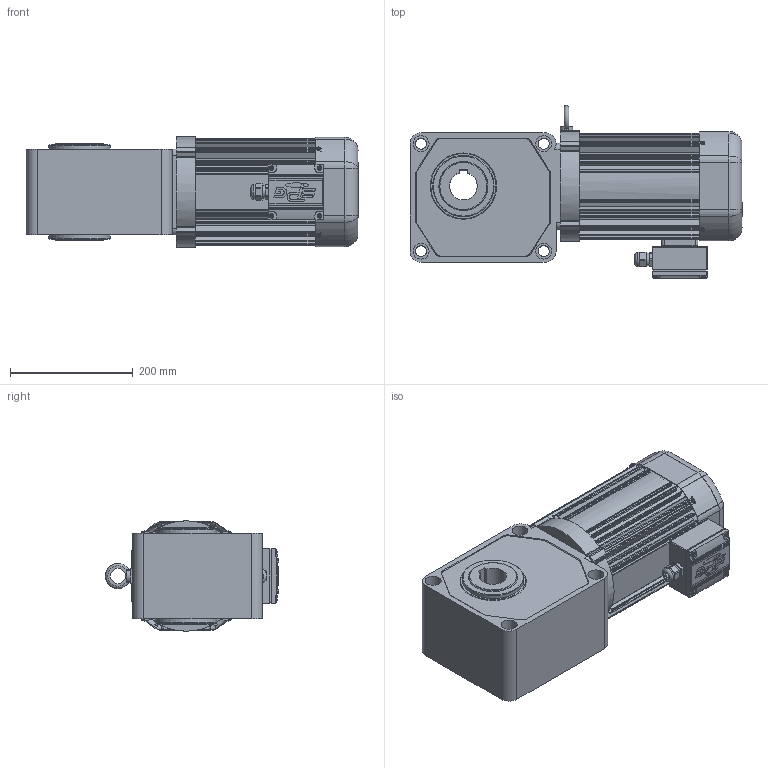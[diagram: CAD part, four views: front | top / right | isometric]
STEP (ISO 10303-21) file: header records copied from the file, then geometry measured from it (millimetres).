
FILE_DESCRIPTION(/* description */ (''),/* implementation_level */ '2;1');
FILE_NAME(/* name */ 'Z:\동력 3D 파일\PCH45_1.5kW_3D.stp',/* time_stamp */ '2021-11-09T10:22:34+09:00',/* author */ ('jaebok'),/* organization */ (''),/* preprocessor_version */ 'ST-DEVELOPER v18.1',/* originating_system */ 'Autodesk Inventor 2022',/* authorisation */ '');
FILE_SCHEMA (('AUTOMOTIVE_DESIGN { 1 0 10303 214 3 1 1 }'));
Products named in the file (1): 부품31
Bounding box: 541 x 282 x 180 mm (x, y, z)
Volume: 8863570.8 mm3; surface area: 882449.9 mm2
Topology: 1 solids, 25 shells, 1754 faces, 4613 edges, 2905 vertices
Faces by surface type: plane 710, cylinder 644, bspline 238, torus 87, cone 55, sphere 20
Full cylindrical faces by diameter (mm): 3.25 x1, 3.6 x4, 4 x22, 4.917 x4, 5 x17, 6 x1, 7 x12, 8 x1, 8.8 x1, 10 x3, 12.5 x1, 15 x1, 18 x4, 20 x2, 21 x1, 23.6 x1, 25 x2, 26 x5, 36 x1, 38 x1, 52 x1, 100 x2, 156 x1, 160 x2, 161 x1, 165.4 x2, 168 x4
Entity records: 63946 total; most frequent: CARTESIAN_POINT 19657, ORIENTED_EDGE 9104, DIRECTION 8755, EDGE_CURVE 4552, AXIS2_PLACEMENT_3D 3343, VERTEX_POINT 2904, LINE 2069, VECTOR 2069
